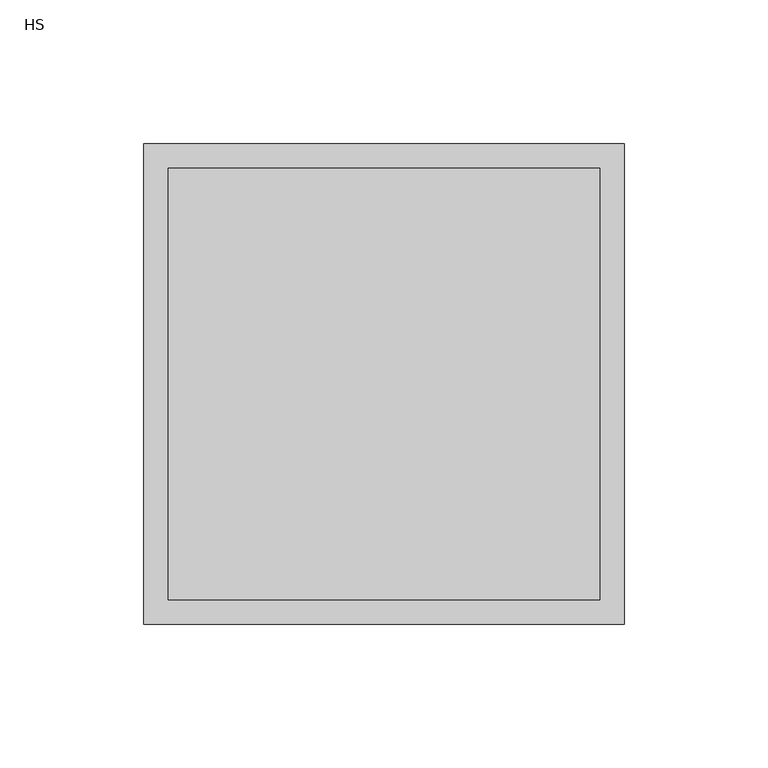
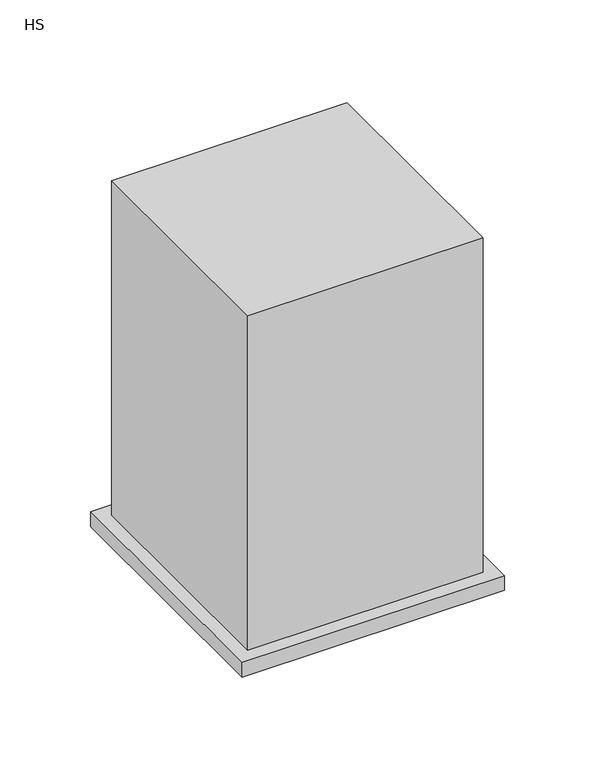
"""IFC4 building model written with IfcOpenShell, lengths in millimetres: air terminal geometry, 041_ユニバーサル形吸込口 : HS."""

from ifc_helpers import new_model, si_unit, frame, origin, origin_with_axes, place, context, project, spatial, polyline, outline, extrude, source, transform, mapped, element, save


def hs_ae62fc1b(model_context):
    return source(origin(), model_context, "Body", "SweptSolid", [
        extrude(outline(polyline([(75.0, -75.0), (-75.0, -75.0), (-75.0, 75.0), (75.0, 75.0), (75.0, -75.0)])), origin_with_axes(), (0.0, 0.0, 1.0), 225.0),
        extrude(outline(polyline([(83.5, 83.5), (83.5, -83.5), (-83.5, -83.5), (-83.5, 83.5), (83.5, 83.5)]), holes=[polyline([(75.0, 75.0), (-75.0, 75.0), (-75.0, -75.0), (75.0, -75.0), (75.0, 75.0)])]), frame((0.0, 0.0, -10.0), z_axis=(0.0, 0.0, 1.0), x_axis=(1.0, 0.0, 0.0)), (0.0, 0.0, 1.0), 10.0),
    ])


if __name__ == "__main__":
    model = new_model("IFC4")
    model_context = context("Model", 3, world=origin())
    ifc_project = project(units=[si_unit("LENGTHUNIT", "METRE", prefix="MILLI")], contexts=[model_context])
    site = spatial("IfcSite", under=ifc_project)
    building = spatial("IfcBuilding", under=site)
    placement = place(None, origin())
    hs_shape = hs_ae62fc1b(model_context)
    element("IfcAirTerminal", 1, ObjectType="041_ユニバーサル形吸込口 : HS", at=placement, inside=building, context=model_context, shape_type="MappedRepresentation", body=[
        mapped(hs_shape, transform((0.0, 0.0, 0.0), x_axis=(1.0, 0.0, 0.0), y_axis=(0.0, 1.0, 0.0), z_axis=(0.0, 0.0, 1.0))),
    ])
    save(model, "model.ifc")
